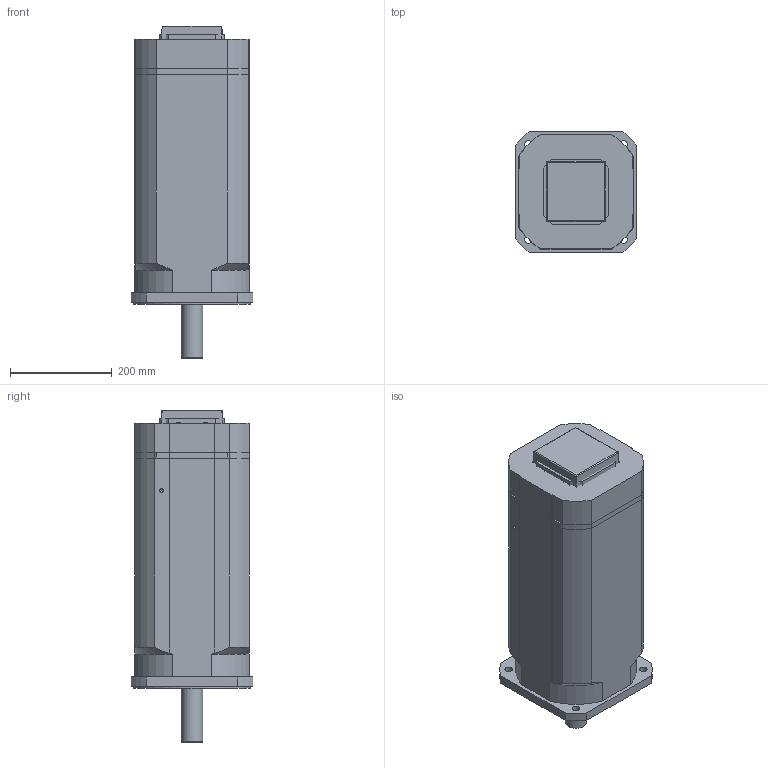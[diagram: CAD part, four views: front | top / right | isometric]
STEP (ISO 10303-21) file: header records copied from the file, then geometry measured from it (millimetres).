
FILE_DESCRIPTION(/* description */ ('Alibre Inc.'),/* implementation_level */ '2;1');
FILE_NAME(/* name */ 'export0',/* time_stamp */ '2011-10-25T14:42:10+02:00',/* author */ (''),/* organization */ (''),/* preprocessor_version */ 'ST-DEVELOPER v12',/* originating_system */ 'Alibre',/* authorisation */ '');
FILE_SCHEMA (('ALIBRE_SCHEMA','CONFIG_CONTROL_DESIGN'));
Length unit declared in the file: millimetre
Products named in the file (8): ID_1
Bounding box: 240 x 240 x 653.5 mm (x, y, z)
Volume: 27392449.7 mm3; surface area: 806918.1 mm2
Topology: 7 solids, 7 shells, 232 faces, 585 edges, 375 vertices
Faces by surface type: plane 120, cylinder 82, torus 15, cone 11, bspline 4
Full cylindrical faces by diameter (mm): 2.7 x4, 6.647 x3, 10.106 x1, 15 x5, 20 x4, 24 x1, 25 x2, 26.75 x1, 30 x2, 42 x1, 45 x1, 230 x1
Entity records: 23702 total; most frequent: CARTESIAN_POINT 5075, DIRECTION 2841, ORIENTED_EDGE 2770, EDGE_CURVE 1385, AXIS2_PLACEMENT_3D 1149, VERTEX_POINT 959, VECTOR 876, LINE 819
